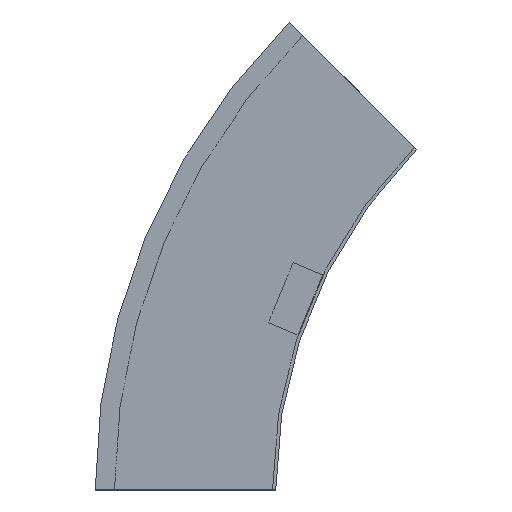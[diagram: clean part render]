
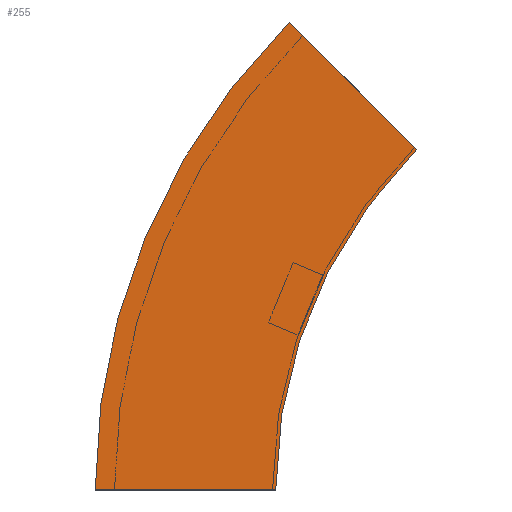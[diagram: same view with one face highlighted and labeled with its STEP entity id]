
A CAD part, left-side view. The second image highlights one B-rep face of the part: STEP entity #255.
In plain terms, the highlighted planar face has unit normal (-1, 0, 0) as drawn and (1, 0, 0) by its records, which use the part's own axes.
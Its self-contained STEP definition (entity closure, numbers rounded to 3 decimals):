
#18 = AXIS2_PLACEMENT_3D ( 'NONE', #406, #139, #241 ) ;
#31 = DIRECTION ( 'NONE',  ( 1., 0., 0. ) ) ;
#43 = PLANE ( 'NONE',  #18 ) ;
#70 = VERTEX_POINT ( 'NONE', #513 ) ;
#71 = ORIENTED_EDGE ( 'NONE', *, *, #408, .F. ) ;
#82 = LINE ( 'NONE', #285, #311 ) ;
#103 = DIRECTION ( 'NONE',  ( 0., 1., 0. ) ) ;
#139 = DIRECTION ( 'NONE',  ( 1., 0., 0. ) ) ;
#142 = DIRECTION ( 'NONE',  ( 0., 0.707, 0.707 ) ) ;
#156 = EDGE_CURVE ( 'NONE', #70, #185, #386, .T. ) ;
#173 = EDGE_LOOP ( 'NONE', ( #533, #195, #71, #360 ) ) ;
#175 = CIRCLE ( 'NONE', #256, 412.5 ) ;
#185 = VERTEX_POINT ( 'NONE', #229 ) ;
#186 = DIRECTION ( 'NONE',  ( 0., 1., 0. ) ) ;
#193 = CARTESIAN_POINT ( 'NONE',  ( 0., -300., 0. ) ) ;
#195 = ORIENTED_EDGE ( 'NONE', *, *, #416, .F. ) ;
#229 = CARTESIAN_POINT ( 'NONE',  ( 0., 112.5, 0. ) ) ;
#237 = EDGE_CURVE ( 'NONE', #185, #478, #175, .T. ) ;
#241 = DIRECTION ( 'NONE',  ( 0., 0., -1. ) ) ;
#255 = ADVANCED_FACE ( 'NONE', ( #481 ), #43, .T. ) ;
#256 = AXIS2_PLACEMENT_3D ( 'NONE', #433, #31, #399 ) ;
#275 = CARTESIAN_POINT ( 'NONE',  ( 0., -87.868, 212.132 ) ) ;
#285 = CARTESIAN_POINT ( 'NONE',  ( 0., -87.868, 212.132 ) ) ;
#311 = VECTOR ( 'NONE', #142, 1000. ) ;
#341 = CARTESIAN_POINT ( 'NONE',  ( 0., 0., 0. ) ) ;
#355 = VECTOR ( 'NONE', #103, 1000. ) ;
#360 = ORIENTED_EDGE ( 'NONE', *, *, #156, .T. ) ;
#369 = DIRECTION ( 'NONE',  ( 1., 0., 0. ) ) ;
#386 = LINE ( 'NONE', #341, #355 ) ;
#399 = DIRECTION ( 'NONE',  ( 0., 1., 0. ) ) ;
#406 = CARTESIAN_POINT ( 'NONE',  ( 0., 0., 0. ) ) ;
#408 = EDGE_CURVE ( 'NONE', #70, #527, #528, .T. ) ;
#416 = EDGE_CURVE ( 'NONE', #527, #478, #82, .T. ) ;
#433 = CARTESIAN_POINT ( 'NONE',  ( 0., -300., 0. ) ) ;
#451 = CARTESIAN_POINT ( 'NONE',  ( 0., -8.318, 291.682 ) ) ;
#478 = VERTEX_POINT ( 'NONE', #451 ) ;
#481 = FACE_OUTER_BOUND ( 'NONE', #173, .T. ) ;
#513 = CARTESIAN_POINT ( 'NONE',  ( 0., 0., 0. ) ) ;
#527 = VERTEX_POINT ( 'NONE', #275 ) ;
#528 = CIRCLE ( 'NONE', #564, 300. ) ;
#533 = ORIENTED_EDGE ( 'NONE', *, *, #237, .T. ) ;
#564 = AXIS2_PLACEMENT_3D ( 'NONE', #193, #369, #186 ) ;
